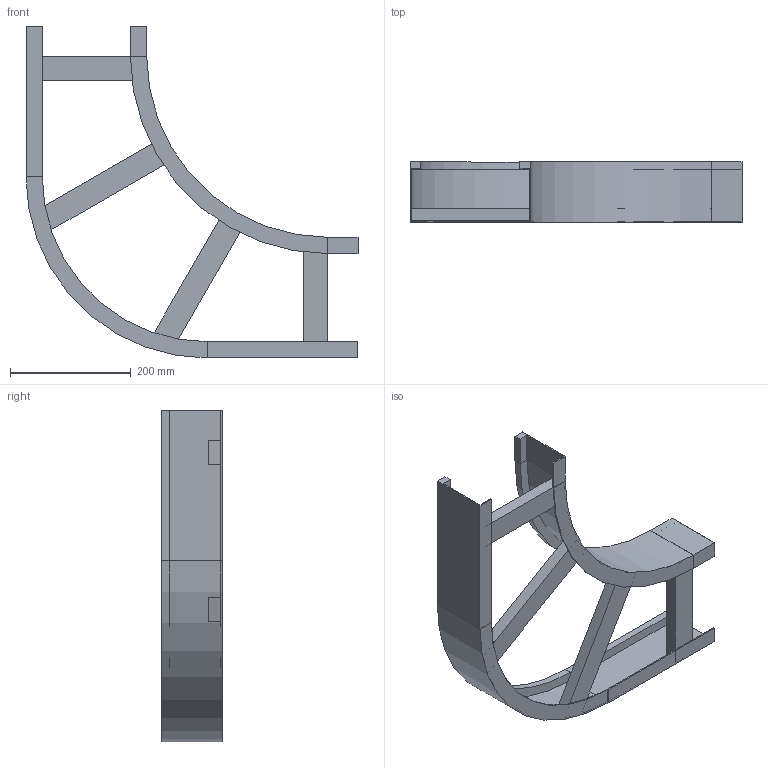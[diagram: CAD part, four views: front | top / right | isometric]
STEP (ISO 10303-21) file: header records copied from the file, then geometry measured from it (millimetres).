
FILE_DESCRIPTION (( 'STEP AP214' ), '1' );
FILE_NAME ('B2_10B3D200.step', '2025-02-21T15:23:22', ( '' ), ( '' ), 'SwSTEP 2.0', 'SolidWorks 2023', '' );
FILE_SCHEMA (( 'AUTOMOTIVE_DESIGN' ));
Length unit declared in the file: millimetre
Products named in the file (5): TRAVERSINO_200; B2_LONGH.INTERNO 90°_H100_R300; B2_10B3D200; TRAVERSINO_300_SCANTONATO; B2_LONGH.ESTERNO 90°_H100_R300+200
Assembly tree (6 placements, depth 2):
  B2_10B3D200
    B2_LONGH.INTERNO 90°_H100_R300
    B2_LONGH.ESTERNO 90°_H100_R300+200
    TRAVERSINO_200  x2
    TRAVERSINO_300_SCANTONATO  x2
Bounding box: 550 x 100 x 550 mm (x, y, z)
Volume: 1420090.2 mm3; surface area: 559741.7 mm2
Topology: 6 solids, 6 shells, 76 faces, 160 edges, 96 vertices
Faces by surface type: plane 68, cylinder 8
Entity records: 1830 total; most frequent: DIRECTION 298, CARTESIAN_POINT 289, ORIENTED_EDGE 272, EDGE_CURVE 136, LINE 120, VECTOR 120, AXIS2_PLACEMENT_3D 89, VERTEX_POINT 80
